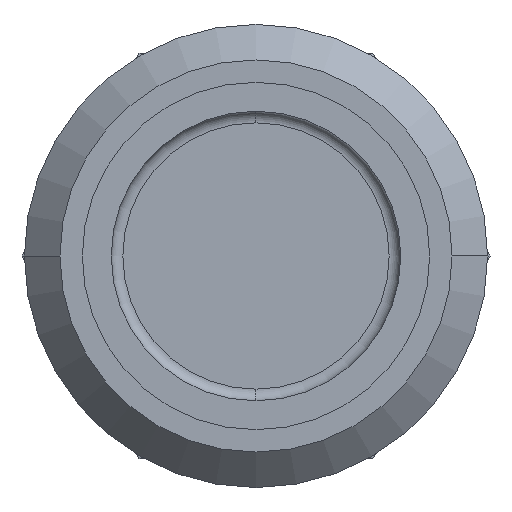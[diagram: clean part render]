
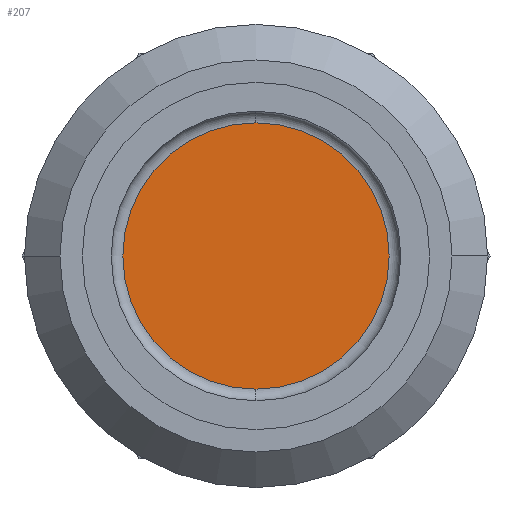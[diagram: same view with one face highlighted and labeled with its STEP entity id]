
A CAD part, left-side view. The second image highlights one B-rep face of the part: STEP entity #207.
In plain terms, the highlighted planar face has unit normal (-1, 0, 0).
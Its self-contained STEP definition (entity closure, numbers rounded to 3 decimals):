
#207 = ADVANCED_FACE( '', ( #344 ), #345, .T. );
#344 = FACE_OUTER_BOUND( '', #545, .T. );
#345 = PLANE( '', #546 );
#545 = EDGE_LOOP( '', ( #930, #931, #932 ) );
#546 = AXIS2_PLACEMENT_3D( '', #933, #934, #935 );
#930 = ORIENTED_EDGE( '', *, *, #1447, .T. );
#931 = ORIENTED_EDGE( '', *, *, #1376, .T. );
#932 = ORIENTED_EDGE( '', *, *, #1448, .T. );
#933 = CARTESIAN_POINT( '', ( 6., 1.15, 0. ) );
#934 = DIRECTION( '', ( -1., 0., 0. ) );
#935 = DIRECTION( '', ( 0., 1., 0. ) );
#1376 = EDGE_CURVE( '', #1578, #1584, #1586, .T. );
#1447 = EDGE_CURVE( '', #1696, #1578, #1697, .T. );
#1448 = EDGE_CURVE( '', #1584, #1696, #1698, .T. );
#1578 = VERTEX_POINT( '', #1900 );
#1584 = VERTEX_POINT( '', #1906 );
#1586 = CIRCLE( '', #1908, 2.3 );
#1696 = VERTEX_POINT( '', #2184 );
#1697 = CIRCLE( '', #2185, 2.3 );
#1698 = CIRCLE( '', #2186, 2.3 );
#1900 = CARTESIAN_POINT( '', ( 6., 0., -2.3 ) );
#1906 = CARTESIAN_POINT( '', ( 6., 0., 2.3 ) );
#1908 = AXIS2_PLACEMENT_3D( '', #2863, #2864, #2865 );
#2184 = CARTESIAN_POINT( '', ( 6., 2.3, 0. ) );
#2185 = AXIS2_PLACEMENT_3D( '', #3000, #3001, #3002 );
#2186 = AXIS2_PLACEMENT_3D( '', #3003, #3004, #3005 );
#2863 = CARTESIAN_POINT( '', ( 6., 0., 0. ) );
#2864 = DIRECTION( '', ( -1., 0., 0. ) );
#2865 = DIRECTION( '', ( 0., 1., 0. ) );
#3000 = CARTESIAN_POINT( '', ( 6., 0., 0. ) );
#3001 = DIRECTION( '', ( -1., 0., 0. ) );
#3002 = DIRECTION( '', ( 0., 1., 0. ) );
#3003 = CARTESIAN_POINT( '', ( 6., 0., 0. ) );
#3004 = DIRECTION( '', ( -1., 0., 0. ) );
#3005 = DIRECTION( '', ( 0., 1., 0. ) );
